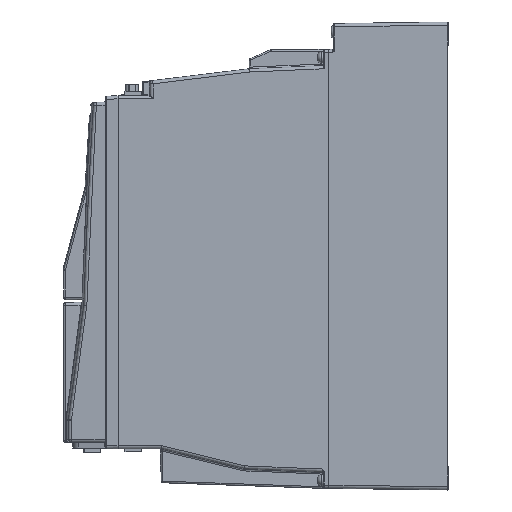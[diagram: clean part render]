
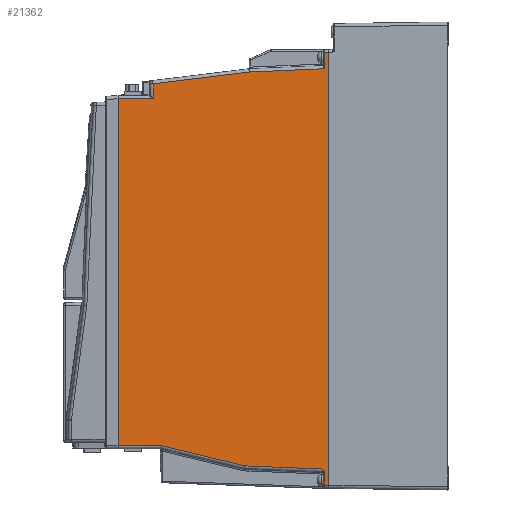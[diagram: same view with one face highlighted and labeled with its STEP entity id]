
A CAD part, left-side view. The second image highlights one B-rep face of the part: STEP entity #21362.
In plain terms, the highlighted planar face has unit normal (-1, 0, 0).
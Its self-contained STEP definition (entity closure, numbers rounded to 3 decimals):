
#156 = LINE ( 'NONE', #32291, #37251 ) ;
#344 = VECTOR ( 'NONE', #38961, 1000. ) ;
#707 = CARTESIAN_POINT ( 'NONE',  ( -64., 76.92, -277.036 ) ) ;
#748 = VECTOR ( 'NONE', #39982, 1000. ) ;
#804 = EDGE_CURVE ( 'NONE', #24806, #7069, #45605, .T. ) ;
#1312 = CARTESIAN_POINT ( 'NONE',  ( -64., 77.5, -277.013 ) ) ;
#2176 = VERTEX_POINT ( 'NONE', #28170 ) ;
#2628 = CARTESIAN_POINT ( 'NONE',  ( -64., 76.5, -28.98 ) ) ;
#3043 = DIRECTION ( 'NONE',  ( 0., -0.972, -0.236 ) ) ;
#4001 = VECTOR ( 'NONE', #11279, 1000. ) ;
#4544 = CARTESIAN_POINT ( 'NONE',  ( -64., 213.846, -34.952 ) ) ;
#5017 = DIRECTION ( 'NONE',  ( 0., 0.999, -0.043 ) ) ;
#5037 = AXIS2_PLACEMENT_3D ( 'NONE', #15817, #38109, #41462 ) ;
#5058 = CARTESIAN_POINT ( 'NONE',  ( -64., 76.535, -278.634 ) ) ;
#5250 = DIRECTION ( 'NONE',  ( 0., 0., -1. ) ) ;
#5300 = CARTESIAN_POINT ( 'NONE',  ( -64., 76.652, -278.27 ) ) ;
#5630 = EDGE_CURVE ( 'NONE', #40319, #8461, #19640, .T. ) ;
#5896 = CARTESIAN_POINT ( 'NONE',  ( -64., 202.8, -287. ) ) ;
#6409 = VERTEX_POINT ( 'NONE', #1312 ) ;
#6507 = VERTEX_POINT ( 'NONE', #42760 ) ;
#6832 = VERTEX_POINT ( 'NONE', #9173 ) ;
#7069 = VERTEX_POINT ( 'NONE', #41711 ) ;
#7655 = VECTOR ( 'NONE', #24953, 1000. ) ;
#7678 = LINE ( 'NONE', #4544, #17046 ) ;
#7768 = DIRECTION ( 'NONE',  ( 0., 0., 1. ) ) ;
#8461 = VERTEX_POINT ( 'NONE', #46529 ) ;
#8679 = EDGE_CURVE ( 'NONE', #41427, #13337, #23463, .T. ) ;
#9102 = PLANE ( 'NONE',  #5037 ) ;
#9146 = CARTESIAN_POINT ( 'NONE',  ( -64., 77.016, -277.606 ) ) ;
#9173 = CARTESIAN_POINT ( 'NONE',  ( -64., 125.725, -275.044 ) ) ;
#9490 = ORIENTED_EDGE ( 'NONE', *, *, #30454, .F. ) ;
#10349 = LINE ( 'NONE', #35754, #7655 ) ;
#10866 = EDGE_CURVE ( 'NONE', #47300, #6832, #17447, .T. ) ;
#11023 = VECTOR ( 'NONE', #19713, 1000. ) ;
#11279 = DIRECTION ( 'NONE',  ( 0., -0.999, -0.041 ) ) ;
#12082 = CARTESIAN_POINT ( 'NONE',  ( -64., 204.2, -262.5 ) ) ;
#12216 = DIRECTION ( 'NONE',  ( 0., 0., -1. ) ) ;
#13158 = CARTESIAN_POINT ( 'NONE',  ( -64., 125.536, -275.09 ) ) ;
#13337 = VERTEX_POINT ( 'NONE', #20260 ) ;
#14078 = CARTESIAN_POINT ( 'NONE',  ( -64., 77.5, -277.013 ) ) ;
#14348 = LINE ( 'NONE', #25369, #748 ) ;
#15503 = VERTEX_POINT ( 'NONE', #28135 ) ;
#15650 = CARTESIAN_POINT ( 'NONE',  ( -64., 76.5, -289. ) ) ;
#15817 = CARTESIAN_POINT ( 'NONE',  ( -64., 202.8, -289. ) ) ;
#16069 = CARTESIAN_POINT ( 'NONE',  ( -64., 177.407, -262.5 ) ) ;
#16268 = ORIENTED_EDGE ( 'NONE', *, *, #40502, .T. ) ;
#16743 = VERTEX_POINT ( 'NONE', #21363 ) ;
#17046 = VECTOR ( 'NONE', #5017, 1000. ) ;
#17447 = LINE ( 'NONE', #13158, #36908 ) ;
#18086 = ORIENTED_EDGE ( 'NONE', *, *, #20190, .F. ) ;
#19640 = LINE ( 'NONE', #41460, #28981 ) ;
#19713 = DIRECTION ( 'NONE',  ( 0., 0., -1. ) ) ;
#19926 = CARTESIAN_POINT ( 'NONE',  ( -64., 77.259, -277.308 ) ) ;
#20062 = LINE ( 'NONE', #5896, #344 ) ;
#20190 = EDGE_CURVE ( 'NONE', #40319, #15503, #41213, .T. ) ;
#20260 = CARTESIAN_POINT ( 'NONE',  ( -64., 182.5, -47.5 ) ) ;
#21362 = ADVANCED_FACE ( 'NONE', ( #22998 ), #9102, .F. ) ;
#21363 = CARTESIAN_POINT ( 'NONE',  ( -64., 204.2, -262.5 ) ) ;
#21546 = ORIENTED_EDGE ( 'NONE', *, *, #45690, .T. ) ;
#22477 = CARTESIAN_POINT ( 'NONE',  ( -64., 182.5, -38.271 ) ) ;
#22998 = FACE_OUTER_BOUND ( 'NONE', #38096, .T. ) ;
#23226 = DIRECTION ( 'NONE',  ( 0., 1., 0. ) ) ;
#23463 = LINE ( 'NONE', #38101, #38856 ) ;
#23602 = DIRECTION ( 'NONE',  ( 0., 1., 0. ) ) ;
#24621 = CARTESIAN_POINT ( 'NONE',  ( -64., 76.5, -279.014 ) ) ;
#24806 = VERTEX_POINT ( 'NONE', #38336 ) ;
#24907 = VECTOR ( 'NONE', #12216, 1000. ) ;
#24953 = DIRECTION ( 'NONE',  ( 0., 0., -1. ) ) ;
#25369 = CARTESIAN_POINT ( 'NONE',  ( -64., 202.8, -262.5 ) ) ;
#26924 = LINE ( 'NONE', #12082, #28335 ) ;
#27208 = CARTESIAN_POINT ( 'NONE',  ( -64., 202.8, -47.5 ) ) ;
#28100 = ORIENTED_EDGE ( 'NONE', *, *, #30090, .T. ) ;
#28135 = CARTESIAN_POINT ( 'NONE',  ( -64., 73.67, -287. ) ) ;
#28170 = CARTESIAN_POINT ( 'NONE',  ( -64., 122.835, -30.995 ) ) ;
#28335 = VECTOR ( 'NONE', #7768, 1000. ) ;
#28522 = ORIENTED_EDGE ( 'NONE', *, *, #8679, .T. ) ;
#28527 = CARTESIAN_POINT ( 'NONE',  ( -64., 73.67, -19. ) ) ;
#28981 = VECTOR ( 'NONE', #23226, 1000. ) ;
#29138 = ORIENTED_EDGE ( 'NONE', *, *, #5630, .T. ) ;
#29278 = EDGE_CURVE ( 'NONE', #42248, #2176, #7678, .T. ) ;
#30070 = VECTOR ( 'NONE', #23602, 1000. ) ;
#30090 = EDGE_CURVE ( 'NONE', #13337, #6507, #45423, .T. ) ;
#30349 = EDGE_CURVE ( 'NONE', #6409, #24806, #46211, .T. ) ;
#30413 = CARTESIAN_POINT ( 'NONE',  ( -64., 73.67, -19. ) ) ;
#30454 = EDGE_CURVE ( 'NONE', #16743, #6507, #26924, .T. ) ;
#30942 = CARTESIAN_POINT ( 'NONE',  ( -64., 76.5, -278.822 ) ) ;
#32291 = CARTESIAN_POINT ( 'NONE',  ( -64., 232.631, -44.384 ) ) ;
#33428 = EDGE_CURVE ( 'NONE', #2176, #41427, #156, .T. ) ;
#33438 = ORIENTED_EDGE ( 'NONE', *, *, #804, .T. ) ;
#35754 = CARTESIAN_POINT ( 'NONE',  ( -64., 76.5, -289. ) ) ;
#35779 = ORIENTED_EDGE ( 'NONE', *, *, #37277, .T. ) ;
#36908 = VECTOR ( 'NONE', #3043, 1000. ) ;
#37251 = VECTOR ( 'NONE', #46931, 1000. ) ;
#37277 = EDGE_CURVE ( 'NONE', #16743, #47300, #14348, .T. ) ;
#37733 = EDGE_CURVE ( 'NONE', #8461, #42248, #10349, .T. ) ;
#38096 = EDGE_LOOP ( 'NONE', ( #21546, #18086, #29138, #38848, #41248, #46601, #28522, #28100, #9490, #35779, #45540, #16268, #44517, #33438 ) ) ;
#38101 = CARTESIAN_POINT ( 'NONE',  ( -64., 182.5, -289. ) ) ;
#38109 = DIRECTION ( 'NONE',  ( 1., 0., 0. ) ) ;
#38147 = CARTESIAN_POINT ( 'NONE',  ( -64., 76.733, -278.099 ) ) ;
#38336 = CARTESIAN_POINT ( 'NONE',  ( -64., 76.5, -279.014 ) ) ;
#38848 = ORIENTED_EDGE ( 'NONE', *, *, #37733, .T. ) ;
#38856 = VECTOR ( 'NONE', #5250, 1000. ) ;
#38961 = DIRECTION ( 'NONE',  ( 0., -1., 0. ) ) ;
#39982 = DIRECTION ( 'NONE',  ( 0., -1., 0. ) ) ;
#40319 = VERTEX_POINT ( 'NONE', #28527 ) ;
#40502 = EDGE_CURVE ( 'NONE', #6832, #6409, #44109, .T. ) ;
#41213 = LINE ( 'NONE', #30413, #24907 ) ;
#41248 = ORIENTED_EDGE ( 'NONE', *, *, #29278, .T. ) ;
#41427 = VERTEX_POINT ( 'NONE', #22477 ) ;
#41460 = CARTESIAN_POINT ( 'NONE',  ( -64., 202.8, -19. ) ) ;
#41462 = DIRECTION ( 'NONE',  ( 0., 0., -1. ) ) ;
#41711 = CARTESIAN_POINT ( 'NONE',  ( -64., 76.5, -287. ) ) ;
#42248 = VERTEX_POINT ( 'NONE', #2628 ) ;
#42760 = CARTESIAN_POINT ( 'NONE',  ( -64., 204.2, -47.5 ) ) ;
#44109 = LINE ( 'NONE', #707, #4001 ) ;
#44517 = ORIENTED_EDGE ( 'NONE', *, *, #30349, .T. ) ;
#45423 = LINE ( 'NONE', #27208, #30070 ) ;
#45540 = ORIENTED_EDGE ( 'NONE', *, *, #10866, .T. ) ;
#45605 = LINE ( 'NONE', #15650, #11023 ) ;
#45690 = EDGE_CURVE ( 'NONE', #7069, #15503, #20062, .T. ) ;
#46211 = B_SPLINE_CURVE_WITH_KNOTS ( 'NONE', 3,
 ( #14078, #19926, #9146, #38147, #5300, #5058, #30942, #24621 ),
 .UNSPECIFIED., .F., .F.,
 ( 4, 2, 2, 4 ),
 ( 0., 0.001, 0.002, 0.002 ),
 .UNSPECIFIED. ) ;
#46529 = CARTESIAN_POINT ( 'NONE',  ( -64., 76.5, -19. ) ) ;
#46601 = ORIENTED_EDGE ( 'NONE', *, *, #33428, .T. ) ;
#46931 = DIRECTION ( 'NONE',  ( 0., 0.993, -0.121 ) ) ;
#47300 = VERTEX_POINT ( 'NONE', #16069 ) ;
